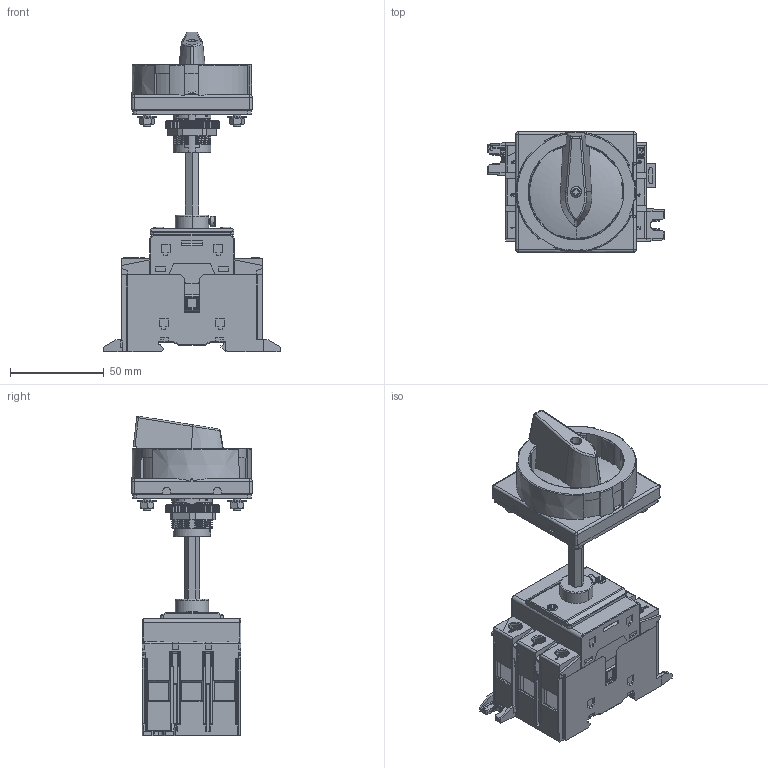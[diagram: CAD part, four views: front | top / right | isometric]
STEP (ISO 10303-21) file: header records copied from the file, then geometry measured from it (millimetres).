
FILE_DESCRIPTION (( 'STEP AP203' ), '1' );
FILE_NAME ('NF2-80DO.STEP', '2024-03-01T05:48:01', ( 'wzjh' ), ( '' ), 'SwSTEP 2.0', 'SolidWorks 2023', '' );
FILE_SCHEMA (( 'CONFIG_CONTROL_DESIGN' ));
Products named in the file (1): NF2-80DO
Bounding box: 94 x 64 x 170.28 mm (x, y, z)
Volume: 263176.6 mm3; surface area: 84084.1 mm2
Topology: 6 solids, 32 shells, 3654 faces, 10277 edges, 6677 vertices
Faces by surface type: plane 2466, cylinder 582, bspline 368, cone 151, torus 64, sphere 23
Entity records: 171869 total; most frequent: CARTESIAN_POINT 81749, ORIENTED_EDGE 20526, DIRECTION 16102, EDGE_CURVE 10263, LINE 7224, VECTOR 7224, VERTEX_POINT 6677, AXIS2_PLACEMENT_3D 4439
